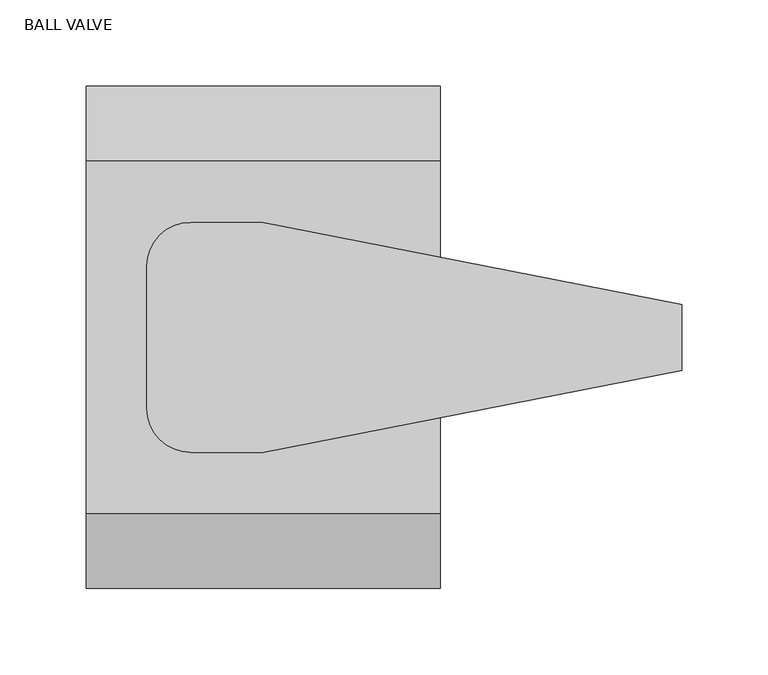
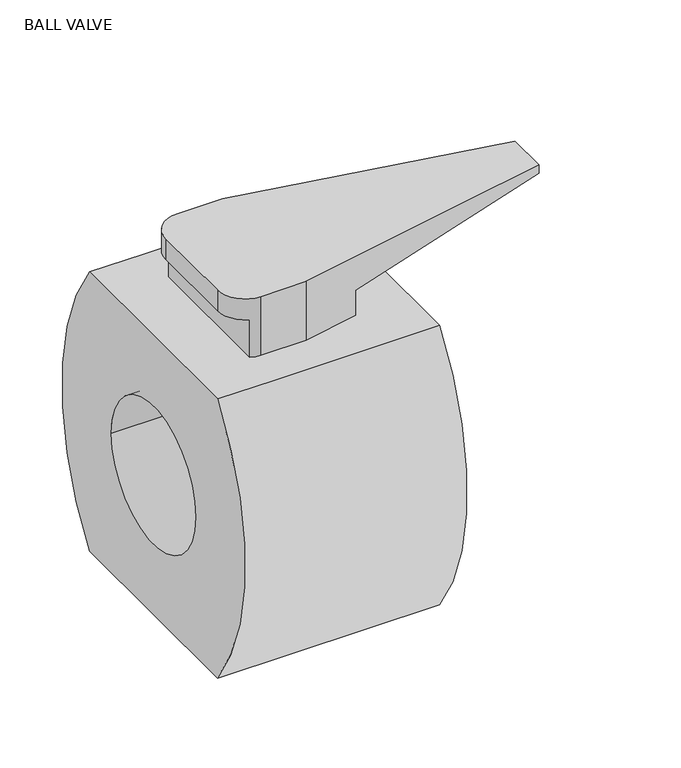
"""IFC4 building model written with IfcOpenShell, lengths in millimetres: valve geometry, Aquatherm - Ball Valve : BALL VALVE."""

import ifcopenshell
import ifcopenshell.guid

model = None  # the IFC model being written
_history = None  # IfcOwnerHistory: only IFC2X3 demands one
_inside = {}  # id of a spatial element -> (the spatial element, [elements in it])
_under = {}  # id of a project, library or spatial element -> (it, [spatial elements below it])
_declared = {}  # id of a project -> (the project, [libraries it declares])
_typed = {}  # id of a type object -> (the type object, [elements of that type])
_made_of = {}  # id of a material, layer set ... -> (it, [elements and type objects made of it])


def new_model(schema):
    """Start an empty IFC model of exactly this schema.

    Asked for "IFC4X3", IfcOpenShell would pick the latest addendum, in which some entities
    have other attributes; the version numbers below select the first issue.
    IFC2X3 requires an IfcOwnerHistory on every rooted entity: one is made here for all.
    """
    global model, _history
    if schema == "IFC4X3":
        model = ifcopenshell.file(schema_version=(4, 3, 0, 0))
    else:
        model = ifcopenshell.file(schema=schema)
    _inside.clear()
    _under.clear()
    _declared.clear()
    _typed.clear()
    _made_of.clear()
    _history = None
    if model.schema == "IFC2X3":
        org = make("IfcOrganization", Name="unknown")
        user = make(
            "IfcPersonAndOrganization",
            ThePerson=make("IfcPerson", FamilyName="unknown"),
            TheOrganization=org,
        )
        app = make(
            "IfcApplication",
            ApplicationDeveloper=org,
            Version="unknown",
            ApplicationFullName="unknown",
            ApplicationIdentifier="unknown",
        )
        _history = make(
            "IfcOwnerHistory",
            OwningUser=user,
            OwningApplication=app,
            ChangeAction="ADDED",
            CreationDate=0,
        )
    return model


def make(cls, **values):
    """One entity of the class cls with the attributes given. An attribute that is None is left unset."""
    return model.create_entity(
        cls, **{name: value for name, value in values.items() if value is not None}
    )


def rooted(cls, **values):
    """An entity with a GlobalId (a new one), such as an element, a storey or a relation."""
    return make(cls, GlobalId=ifcopenshell.guid.new(), OwnerHistory=_history, **values)


def si_unit(unit_type, name, prefix=None):
    """IfcSIUnit, for example si_unit("LENGTHUNIT", "METRE", prefix="MILLI")."""
    return make("IfcSIUnit", UnitType=unit_type, Prefix=prefix, Name=name)


def assignment(units):
    """IfcUnitAssignment: the units of a project."""
    return None if units is None else make("IfcUnitAssignment", Units=units)


def point(xyz):
    """IfcCartesianPoint."""
    return None if xyz is None else make("IfcCartesianPoint", Coordinates=xyz)


def direction(xyz):
    """IfcDirection."""
    return None if xyz is None else make("IfcDirection", DirectionRatios=xyz)


def frame(location, z_axis=None, x_axis=None):
    """IfcAxis2Placement3D, a coordinate frame: its origin and axes. An axis left out is left unset."""
    return make(
        "IfcAxis2Placement3D",
        Location=point(location),
        Axis=direction(z_axis),
        RefDirection=direction(x_axis),
    )


def origin():
    """The frame at (0, 0, 0) with its axes left unset."""
    return frame((0.0, 0.0, 0.0))


def place(relative_to, where):
    """IfcLocalPlacement: puts the frame where relative to a parent placement (None: the world)."""
    return make(
        "IfcLocalPlacement", PlacementRelTo=relative_to, RelativePlacement=where
    )


def context(
    kind, dimensions, precision=None, world=None, true_north=None, identifier=None
):
    """IfcGeometricRepresentationContext, for example the 3D "Model" context."""
    return make(
        "IfcGeometricRepresentationContext",
        ContextIdentifier=identifier,
        ContextType=kind,
        CoordinateSpaceDimension=dimensions,
        Precision=precision,
        WorldCoordinateSystem=world,
        TrueNorth=true_north,
    )


def project(units=None, contexts=None):
    """IfcProject with its units and contexts."""
    return rooted(
        "IfcProject",
        Name="project",
        RepresentationContexts=contexts,
        UnitsInContext=assignment(units),
    )


def spatial(cls, under=None, at=None, **own):
    """A site, building, storey or space (cls), placed at a placement, below another one or the project."""
    s = rooted(cls, ObjectPlacement=at, **own)
    if under is not None:
        _under.setdefault(under.id(), (under, []))[1].append(s)
    return s


def polyline(points):
    """IfcPolyline through the points."""
    return make("IfcPolyline", Points=[point(p) for p in points])


def circle_curve(where, radius):
    """IfcCircle in the frame where."""
    return make("IfcCircle", Position=where, Radius=radius)


def shape(context_of_items, identifier, shape_type, items):
    """IfcShapeRepresentation: the items that make up one representation, for example the "Body"."""
    return make(
        "IfcShapeRepresentation",
        ContextOfItems=context_of_items,
        RepresentationIdentifier=identifier,
        RepresentationType=shape_type,
        Items=items,
    )


def source(mapping_origin, context_of_items, identifier, shape_type, items):
    """IfcRepresentationMap: a shape defined once, which mapped items show again and again."""
    return make(
        "IfcRepresentationMap",
        MappingOrigin=mapping_origin,
        MappedRepresentation=shape(context_of_items, identifier, shape_type, items),
    )


def transform(
    local_origin,
    x_axis=None,
    y_axis=None,
    z_axis=None,
    scale=None,
    scale2=None,
    scale3=None,
    uniform=True,
):
    """IfcCartesianTransformationOperator3D, or its non-uniform kind. x_axis, y_axis, z_axis: its Axis1, 2, 3."""
    if uniform:
        return make(
            "IfcCartesianTransformationOperator3D",
            Axis1=direction(x_axis),
            Axis2=direction(y_axis),
            LocalOrigin=point(local_origin),
            Scale=scale,
            Axis3=direction(z_axis),
        )
    return make(
        "IfcCartesianTransformationOperator3DnonUniform",
        Axis1=direction(x_axis),
        Axis2=direction(y_axis),
        LocalOrigin=point(local_origin),
        Scale=scale,
        Axis3=direction(z_axis),
        Scale2=scale2,
        Scale3=scale3,
    )


def mapped(mapping_source, mapping_target):
    """IfcMappedItem: shows the shape of a source again, moved by a transform."""
    return make(
        "IfcMappedItem", MappingSource=mapping_source, MappingTarget=mapping_target
    )


def made_of(thing, what):
    """Note that an element or type object is made of a material, layer set ...; save() writes the relation."""
    if what is not None:
        _made_of.setdefault(what.id(), (what, []))[1].append(thing)
    return thing


def element(
    cls,
    number,
    at=None,
    inside=None,
    cuts=None,
    type_object=None,
    material=None,
    context=None,
    identifier="Body",
    shape_type=None,
    held_by="IfcProductDefinitionShape",
    body=None,
    shapes=None,
    **own,
):
    """One element of the class cls, such as IfcWall. Its Tag is "e" and its number.

    at: its placement. inside: the storey or other place that contains it. cuts: it is an
    opening in that element (IfcRelVoidsElement). A single representation is given by context,
    identifier, shape_type and body (its items); several are given by shapes. held_by: the class
    of the entity that holds the representations. save() writes the other relations.
    """
    e = rooted(cls, Tag="e%d" % number, ObjectPlacement=at, **own)
    if body is not None:
        shapes = [shape(context, identifier, shape_type, body)]
    if shapes is not None:
        e.Representation = make(held_by, Representations=shapes)
    if inside is not None:
        _inside.setdefault(inside.id(), (inside, []))[1].append(e)
    if cuts is not None:
        rooted(
            "IfcRelVoidsElement", RelatingBuildingElement=cuts, RelatedOpeningElement=e
        )
    if type_object is not None:
        _typed.setdefault(type_object.id(), (type_object, []))[1].append(e)
    return made_of(e, material)


def aggregate(whole, parts):
    """IfcRelAggregates: a whole, such as a stair, and the parts it consists of."""
    return rooted("IfcRelAggregates", RelatingObject=whole, RelatedObjects=parts)


def save(model, path):
    """Write the relations noted so far, then the file.

    IfcRelAggregates (storeys below a building ...), IfcRelContainedInSpatialStructure (elements
    in a storey), IfcRelDefinesByType, IfcRelAssociatesMaterial and IfcRelDeclares: one each for
    every whole, place, type object, material and project.
    """
    for whole, parts in _under.values():
        aggregate(whole, parts)
    for where, things in _inside.values():
        rooted(
            "IfcRelContainedInSpatialStructure",
            RelatedElements=things,
            RelatingStructure=where,
        )
    for kind, things in _typed.values():
        rooted("IfcRelDefinesByType", RelatedObjects=things, RelatingType=kind)
    for what, things in _made_of.values():
        rooted("IfcRelAssociatesMaterial", RelatedObjects=things, RelatingMaterial=what)
    for by, libraries in _declared.values():
        rooted("IfcRelDeclares", RelatingContext=by, RelatedDefinitions=libraries)
    model.write(path)


def plane_surface(at):
    """IfcPlane: the flat surface through the origin of the frame at, square to its z axis."""
    return make("IfcPlane", Position=at)


def cylinder_surface(at, radius):
    """IfcCylindricalSurface: all points at the distance radius from the z axis of the frame at."""
    return make("IfcCylindricalSurface", Position=at, Radius=radius)


def revolved_surface(curve, axis_point, axis_direction):
    """IfcSurfaceOfRevolution: the curve turned about the line through axis_point along axis_direction."""
    return make(
        "IfcSurfaceOfRevolution",
        SweptCurve=make("IfcArbitraryOpenProfileDef", ProfileType="CURVE", Curve=curve),
        AxisPosition=make("IfcAxis1Placement", Location=point(axis_point), Axis=direction(axis_direction)),
    )


def advanced_brep(points, edges, surfaces, faces):
    """IfcAdvancedBrep: a solid bounded by faces that lie on surfaces and meet in shared edges.

    An edge is (start, end): straight between two places in points (the first is 0);
    or (start, end, curve); or (start, end, curve, False) where it runs against its curve.
    A face is (place in surfaces, loops), or (place, loops, False) where it looks against
    its surface's normal. A loop lists edges by number (the first is 1), with a minus sign
    where the edge is run from its end to its start. The first loop is the outer one.
    """
    corners = [point(p) for p in points]
    vertices = [make("IfcVertexPoint", VertexGeometry=c) for c in corners]
    made = []
    for start, end, *more in edges:
        made.append(
            make(
                "IfcEdgeCurve",
                EdgeStart=vertices[start],
                EdgeEnd=vertices[end],
                EdgeGeometry=more[0] if more else make("IfcPolyline", Points=[corners[start], corners[end]]),
                SameSense=more[1] if len(more) > 1 else True,
            )
        )
    hull = []
    for where, loops, *sense in faces:
        bounds = []
        for j, loop in enumerate(loops):
            ring = [make("IfcOrientedEdge", EdgeElement=made[abs(k) - 1], Orientation=k > 0) for k in loop]
            bounds.append(
                make(
                    "IfcFaceOuterBound" if j == 0 else "IfcFaceBound",
                    Bound=make("IfcEdgeLoop", EdgeList=ring),
                    Orientation=True,
                )
            )
        hull.append(make("IfcAdvancedFace", Bounds=bounds, FaceSurface=surfaces[where], SameSense=sense[0] if sense else True))
    return make("IfcAdvancedBrep", Outer=make("IfcClosedShell", CfsFaces=hull))


def ball_valve_0f4c6ea7(model_context):
    return source(origin(), model_context, "Body", "AdvancedBrep", [
        advanced_brep(
        [(0.0, 66.675, 193.548), (-41.9354, 66.675, 193.548), (-67.3354, 41.275, 193.548), (-67.3354, -41.275, 193.548), (-41.9354, -66.675, 193.548), (0.0, -66.675, 193.548), (242.5446, -19.1539441, 193.548), (242.5446, 19.1539441, 193.548), (0.0, -66.675, 136.398), (-41.9354, -66.675, 136.398), (-51.2445, -64.9076185, 136.398), (-51.2445, 64.9076185, 136.398), (-41.9354, 66.675, 136.398), (0.0, 66.675, 136.398), (51.2445, 56.6348146, 136.398), (51.2445, -56.6348146, 136.398), (-51.2445, 64.9076185, 173.228), (-67.3354, 41.275, 173.228), (-67.3354, -41.275, 173.228), (-51.2445, -64.9076185, 173.228), (51.2445, -56.6348146, 160.9513333), (242.5446, -19.1539441, 185.5046667), (242.5446, 19.1539441, 185.5046667), (51.2445, 56.6348146, 160.9513333)],
        [
            (0, 1),
            (1, 2, circle_curve(frame((-41.9354, 41.275, 193.548), z_axis=(0.0, 0.0, 1.0), x_axis=(0.0, 1.0, 0.0)), 25.4)),
            (2, 3),
            (3, 4, circle_curve(frame((-41.9354, -41.275, 193.548), z_axis=(0.0, 0.0, 1.0), x_axis=(0.0, 1.0, 0.0)), 25.4)),
            (4, 5),
            (5, 6),
            (6, 7),
            (7, 0),
            (8, 9),
            (9, 10, circle_curve(frame((-41.9354, -41.275, 136.398), z_axis=(0.0, 0.0, -1.0), x_axis=(0.0, 1.0, 0.0)), 25.4)),
            (10, 11),
            (11, 12, circle_curve(frame((-41.9354, 41.275, 136.398), z_axis=(0.0, 0.0, -1.0), x_axis=(0.0, 1.0, 0.0)), 25.4)),
            (12, 13),
            (13, 14),
            (14, 15),
            (15, 8),
            (0, 13),
            (12, 1),
            (11, 16),
            (16, 17, circle_curve(frame((-41.9354, 41.275, 173.228), z_axis=(0.0, 0.0, 1.0), x_axis=(0.0, 1.0, 0.0)), 25.4)),
            (17, 2),
            (17, 18),
            (18, 3),
            (18, 19, circle_curve(frame((-41.9354, -41.275, 173.228), z_axis=(0.0, 0.0, 1.0), x_axis=(0.0, 1.0, 0.0)), 25.4)),
            (19, 10),
            (9, 4),
            (8, 5),
            (15, 20),
            (20, 21),
            (21, 6),
            (21, 22),
            (22, 7),
            (22, 23),
            (23, 14),
            (19, 16),
            (20, 23),
        ],
        [
            plane_surface(frame((-41.9354, 66.675, 193.548), z_axis=(0.0, 0.0, 1.0), x_axis=(-1.0, 0.0, 0.0))),
            plane_surface(frame((-41.9354, 66.675, 136.398), z_axis=(0.0, 0.0, -1.0), x_axis=(1.0, 0.0, 0.0))),
            plane_surface(frame((0.0, 66.675, 193.548), z_axis=(0.0, 1.0, 0.0), x_axis=(0.0, 0.0, -1.0))),
            cylinder_surface(frame((-41.9354, 41.275, 136.398), z_axis=(0.0, 0.0, 1.0), x_axis=(0.0, 1.0, 0.0)), 25.4),
            plane_surface(frame((-67.3354, 41.275, 193.548), z_axis=(-1.0, 0.0, 0.0), x_axis=(0.0, 0.0, -1.0))),
            cylinder_surface(frame((-41.9354, -41.275, 136.398), z_axis=(0.0, 0.0, 1.0), x_axis=(0.0, 1.0, 0.0)), 25.4),
            plane_surface(frame((-41.9354, -66.675, 193.548), z_axis=(0.0, -1.0, 0.0), x_axis=(0.0, 0.0, -1.0))),
            plane_surface(frame((0.0, -66.675, 193.548), z_axis=(0.1922714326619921, -0.9813417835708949, 0.0), x_axis=(0.0, 0.0, -1.0))),
            plane_surface(frame((242.5446, -19.1539441, 193.548), z_axis=(1.0, 0.0, 0.0), x_axis=(0.0, 0.0, -1.0))),
            plane_surface(frame((242.5446, 19.1539441, 193.548), z_axis=(0.19227143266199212, 0.9813417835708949, 0.0), x_axis=(0.0, 0.0, -1.0))),
            plane_surface(frame((-51.2445, -304.8, 136.398), z_axis=(-1.0, 0.0, 0.0), x_axis=(0.0, 1.0, 0.0))),
            plane_surface(frame((-51.2445, -304.8, 173.228), z_axis=(0.0, 0.0, -1.0), x_axis=(0.0, 1.0, 0.0))),
            plane_surface(frame((242.5446, -304.8, 185.5046667), z_axis=(0.12730550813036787, 0.0, -0.9918635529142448), x_axis=(0.0, 1.0, 0.0))),
            plane_surface(frame((51.2445, -304.8, 160.9513333), z_axis=(1.0, 0.0, 0.0), x_axis=(0.0, 1.0, 0.0))),
        ],
        [
            (0, [[1, 2, 3, 4, 5, 6, 7, 8]]),
            (1, [[9, 10, 11, 12, 13, 14, 15, 16]]),
            (2, [[-1, 17, -13, 18]]),
            (3, [[-2, -18, -12, 19, 20, 21]]),
            (4, [[-3, -21, 22, 23]]),
            (5, [[-4, -23, 24, 25, -10, 26]]),
            (6, [[-5, -26, -9, 27]]),
            (7, [[-6, -27, -16, 28, 29, 30]]),
            (8, [[-7, -30, 31, 32]]),
            (9, [[-8, -32, 33, 34, -14, -17]]),
            (10, [[35, -19, -11, -25]]),
            (11, [[-35, -24, -22, -20]]),
            (12, [[36, -33, -31, -29]]),
            (13, [[-36, -28, -15, -34]]),
        ],
    ),
        advanced_brep(
        [(102.489, -102.2036558, 136.398), (102.489, -102.2036558, -136.398), (102.489, 102.2036558, -136.398), (102.489, 102.2036558, 136.398), (102.489, -67.437, 0.0), (102.489, 67.437, 0.0), (-102.489, -102.2036558, 136.398), (-102.489, 102.2036558, 136.398), (-102.489, 102.2036558, -136.398), (-102.489, -102.2036558, -136.398), (-102.489, -67.437, 0.0), (-102.489, 67.437, 0.0), (51.2445, 102.2036558, 136.398), (-51.2445, 102.2036558, 136.398), (-51.2445, -102.2036558, 136.398), (51.2445, -102.2036558, 136.398)],
        [
            (0, 1, circle_curve(frame((102.489, 85.344, 0.0), z_axis=(1.0, 0.0, 0.0), x_axis=(0.0, 1.0, 0.0)), 231.902)),
            (1, 2),
            (2, 3, circle_curve(frame((102.489, -85.344, 0.0), z_axis=(1.0, 0.0, 0.0), x_axis=(0.0, 1.0, 0.0)), 231.902)),
            (3, 0),
            (4, 5, circle_curve(frame((102.489, 0.0, 0.0), z_axis=(-1.0, 0.0, 0.0), x_axis=(0.0, 1.0, 0.0)), 67.437)),
            (5, 4, circle_curve(frame((102.489, 0.0, 0.0), z_axis=(-1.0, 0.0, 0.0), x_axis=(0.0, 1.0, 0.0)), 67.437)),
            (6, 7),
            (7, 8, circle_curve(frame((-102.489, -85.344, 0.0), z_axis=(-1.0, 0.0, 0.0), x_axis=(0.0, 1.0, 0.0)), 231.902)),
            (8, 9),
            (9, 6, circle_curve(frame((-102.489, 85.344, 0.0), z_axis=(-1.0, 0.0, 0.0), x_axis=(0.0, 1.0, 0.0)), 231.902)),
            (10, 11, circle_curve(frame((-102.489, 0.0, 0.0), z_axis=(1.0, 0.0, 0.0), x_axis=(0.0, 1.0, 0.0)), 67.437)),
            (11, 10, circle_curve(frame((-102.489, 0.0, 0.0), z_axis=(1.0, 0.0, 0.0), x_axis=(0.0, 1.0, 0.0)), 67.437)),
            (1, 9),
            (8, 2),
            (3, 12),
            (12, 13),
            (13, 7),
            (6, 14),
            (14, 15),
            (15, 0),
            (4, 10),
            (11, 5),
        ],
        [
            plane_surface(frame((102.489, 317.246, 0.0), z_axis=(1.0, 0.0, 0.0), x_axis=(0.0, 0.0, 1.0))),
            plane_surface(frame((-102.489, 317.246, 0.0), z_axis=(-1.0, 0.0, 0.0), x_axis=(0.0, 0.0, -1.0))),
            plane_surface(frame((102.489, -102.2036558, -136.398), z_axis=(0.0, 0.0, -1.0), x_axis=(-1.0, 0.0, 0.0))),
            plane_surface(frame((102.489, 102.2036558, 136.398), z_axis=(0.0, 0.0, 1.0), x_axis=(-1.0, 0.0, 0.0))),
            revolved_surface(polyline([(-102.489, 67.437, 0.0), (102.489, 67.437, 0.0)]), (0.0, 0.0, 0.0), (-1.0, 0.0, 0.0)),
            cylinder_surface(frame((-102.489, 85.344, 0.0), z_axis=(1.0, 0.0, 0.0), x_axis=(0.0, 1.0, 0.0)), 231.902),
            cylinder_surface(frame((-102.489, -85.344, 0.0), z_axis=(1.0, 0.0, 0.0), x_axis=(0.0, 1.0, 0.0)), 231.902),
        ],
        [
            (0, [[1, 2, 3, 4], [5, 6]]),
            (1, [[7, 8, 9, 10], [11, 12]]),
            (2, [[-2, 13, -9, 14]]),
            (3, [[-4, 15, 16, 17, -7, 18, 19, 20]]),
            (4, [[-5, 21, -12, 22]]),
            (4, [[-6, -22, -11, -21]]),
            (5, [[-1, -20, -19, -18, -10, -13]]),
            (6, [[-3, -14, -8, -17, -16, -15]]),
        ],
    ),
    ])


if __name__ == "__main__":
    model = new_model("IFC4")
    model_context = context("Model", 3, world=origin())
    ifc_project = project(units=[si_unit("LENGTHUNIT", "METRE", prefix="MILLI")], contexts=[model_context])
    site = spatial("IfcSite", under=ifc_project)
    building = spatial("IfcBuilding", under=site)
    placement = place(None, origin())
    ball_valve_shape = ball_valve_0f4c6ea7(model_context)
    element("IfcValve", 1, ObjectType="Aquatherm - Ball Valve : BALL VALVE", at=placement, inside=building, context=model_context, shape_type="MappedRepresentation", body=[
        mapped(ball_valve_shape, transform((0.0, 0.0, 0.0), x_axis=(1.0, 0.0, 0.0), y_axis=(0.0, 1.0, 0.0), z_axis=(0.0, 0.0, 1.0))),
    ])
    save(model, "model.ifc")
